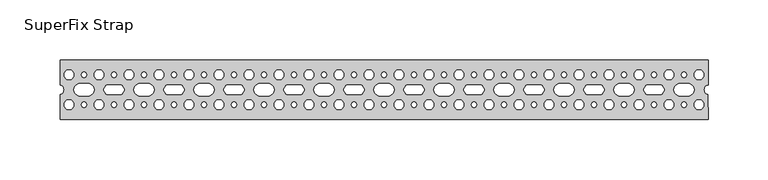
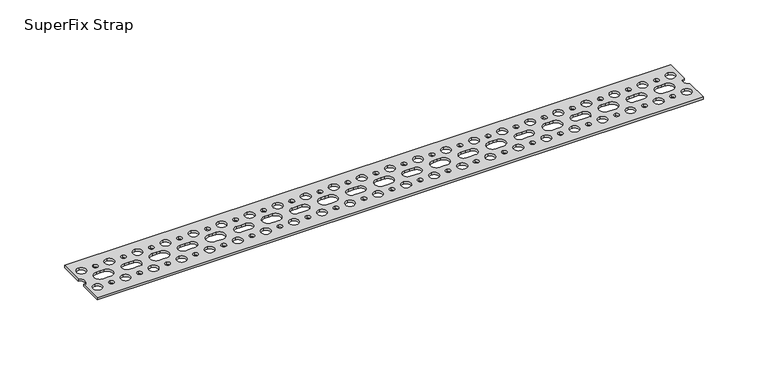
"""IFC4 building model written with IfcOpenShell, lengths in millimetres: valve geometry, Superfix Strap : SuperFix Strap."""

from ifc_helpers import new_model, si_unit, point, frame_2d, origin, origin_with_axes, place, context, project, spatial, polyline, circle_curve, trimmed, segment, composite_curve, outline, extrude, source, transform, mapped, element, save


def superfix_strap_511f298a(model_context):
    return source(origin(), model_context, "Body", "SweptSolid", [
        extrude(outline(composite_curve([segment(polyline([(270.0, -25.0), (-270.0, -25.0), (-270.0, -4.0816663)]), True, "CONTINUOUS"), segment(trimmed(circle_curve(frame_2d((-270.75, 0.0)), 4.15), [point((-270.0, -4.0816663))], [point((-270.0, 4.0816663))], True, "CARTESIAN"), True, "CONTINUOUS"), segment(polyline([(-270.0, 4.0816663), (-270.0, 25.0), (270.0, 25.0), (270.0, 4.0816663)]), True, "CONTINUOUS"), segment(trimmed(circle_curve(frame_2d((270.75, 0.0)), 4.15), [point((270.0, 4.0816663))], [point((270.0, -4.0816663))], True, "CARTESIAN"), True, "CONTINUOUS"), segment(polyline([(270.0, -4.0816663), (270.0, -25.0)]), True, "CONTINUOUS")], self_intersect=False), holes=[composite_curve([segment(polyline([(25.0, 4.15), (20.75, 4.15)]), True, "CONTINUOUS"), segment(trimmed(circle_curve(frame_2d((20.75, 0.0)), 4.15), [point((20.75, 4.15))], [point((20.75, -4.15))], True, "CARTESIAN"), True, "CONTINUOUS"), segment(polyline([(20.75, -4.15), (25.0, -4.15), (29.25, -4.15)]), True, "CONTINUOUS"), segment(trimmed(circle_curve(frame_2d((29.25, 0.0)), 4.15), [point((29.25, -4.15))], [point((29.25, 4.15))], True, "CARTESIAN"), True, "CONTINUOUS"), segment(polyline([(29.25, 4.15), (25.0, 4.15)]), True, "CONTINUOUS")], self_intersect=False), composite_curve([segment(polyline([(0.0, 5.15), (-3.25, 5.15)]), True, "CONTINUOUS"), segment(trimmed(circle_curve(frame_2d((-3.25, 0.0)), 5.15), [point((-3.25, 5.15))], [point((-3.25, -5.15))], True, "CARTESIAN"), True, "CONTINUOUS"), segment(polyline([(-3.25, -5.15), (0.0, -5.15), (3.25, -5.15)]), True, "CONTINUOUS"), segment(trimmed(circle_curve(frame_2d((3.25, 0.0)), 5.15), [point((3.25, -5.15))], [point((3.25, 5.15))], True, "CARTESIAN"), True, "CONTINUOUS"), segment(polyline([(3.25, 5.15), (0.0, 5.15)]), True, "CONTINUOUS")], self_intersect=False), composite_curve([segment(trimmed(circle_curve(frame_2d((0.0, 12.5)), 2.15), [point((0.0, 14.65))], [point((0.0, 10.35))], True, "CARTESIAN"), True, "CONTINUOUS"), segment(trimmed(circle_curve(frame_2d((0.0, 12.5)), 2.15), [point((0.0, 10.35))], [point((0.0, 14.65))], True, "CARTESIAN"), True, "CONTINUOUS")], self_intersect=False), composite_curve([segment(trimmed(circle_curve(frame_2d((25.0, 12.5)), 2.15), [point((25.0, 14.65))], [point((25.0, 10.35))], True, "CARTESIAN"), True, "CONTINUOUS"), segment(trimmed(circle_curve(frame_2d((25.0, 12.5)), 2.15), [point((25.0, 10.35))], [point((25.0, 14.65))], True, "CARTESIAN"), True, "CONTINUOUS")], self_intersect=False), composite_curve([segment(trimmed(circle_curve(frame_2d((25.0, -12.5)), 2.15), [point((25.0, -10.35))], [point((25.0, -14.65))], True, "CARTESIAN"), True, "CONTINUOUS"), segment(trimmed(circle_curve(frame_2d((25.0, -12.5)), 2.15), [point((25.0, -14.65))], [point((25.0, -10.35))], True, "CARTESIAN"), True, "CONTINUOUS")], self_intersect=False), composite_curve([segment(trimmed(circle_curve(frame_2d((0.0, -12.5)), 2.15), [point((0.0, -10.35))], [point((0.0, -14.65))], True, "CARTESIAN"), True, "CONTINUOUS"), segment(trimmed(circle_curve(frame_2d((0.0, -12.5)), 2.15), [point((0.0, -14.65))], [point((0.0, -10.35))], True, "CARTESIAN"), True, "CONTINUOUS")], self_intersect=False), composite_curve([segment(trimmed(circle_curve(frame_2d((12.5, 12.5)), 4.15), [point((12.5, 16.65))], [point((12.5, 8.35))], True, "CARTESIAN"), True, "CONTINUOUS"), segment(trimmed(circle_curve(frame_2d((12.5, 12.5)), 4.15), [point((12.5, 8.35))], [point((12.5, 16.65))], True, "CARTESIAN"), True, "CONTINUOUS")], self_intersect=False), composite_curve([segment(trimmed(circle_curve(frame_2d((12.5, -12.5)), 4.15), [point((12.5, -8.35))], [point((12.5, -16.65))], True, "CARTESIAN"), True, "CONTINUOUS"), segment(trimmed(circle_curve(frame_2d((12.5, -12.5)), 4.15), [point((12.5, -16.65))], [point((12.5, -8.35))], True, "CARTESIAN"), True, "CONTINUOUS")], self_intersect=False), composite_curve([segment(trimmed(circle_curve(frame_2d((37.5, 12.5)), 4.15), [point((37.5, 16.65))], [point((37.5, 8.35))], True, "CARTESIAN"), True, "CONTINUOUS"), segment(trimmed(circle_curve(frame_2d((37.5, 12.5)), 4.15), [point((37.5, 8.35))], [point((37.5, 16.65))], True, "CARTESIAN"), True, "CONTINUOUS")], self_intersect=False), composite_curve([segment(trimmed(circle_curve(frame_2d((37.5, -12.5)), 4.15), [point((37.5, -8.35))], [point((37.5, -16.65))], True, "CARTESIAN"), True, "CONTINUOUS"), segment(trimmed(circle_curve(frame_2d((37.5, -12.5)), 4.15), [point((37.5, -16.65))], [point((37.5, -8.35))], True, "CARTESIAN"), True, "CONTINUOUS")], self_intersect=False), composite_curve([segment(trimmed(circle_curve(frame_2d((-20.75, 0.0)), 4.15), [point((-20.75, -4.15))], [point((-20.75, 4.15))], True, "CARTESIAN"), True, "CONTINUOUS"), segment(polyline([(-20.75, 4.15), (-25.0, 4.15), (-29.25, 4.15)]), True, "CONTINUOUS"), segment(trimmed(circle_curve(frame_2d((-29.25, 0.0)), 4.15), [point((-29.25, 4.15))], [point((-29.25, -4.15))], True, "CARTESIAN"), True, "CONTINUOUS"), segment(polyline([(-29.25, -4.15), (-25.0, -4.15), (-20.75, -4.15)]), True, "CONTINUOUS")], self_intersect=False), composite_curve([segment(trimmed(circle_curve(frame_2d((-25.0, 12.5)), 2.15), [point((-25.0, 14.65))], [point((-25.0, 10.35))], True, "CARTESIAN"), True, "CONTINUOUS"), segment(trimmed(circle_curve(frame_2d((-25.0, 12.5)), 2.15), [point((-25.0, 10.35))], [point((-25.0, 14.65))], True, "CARTESIAN"), True, "CONTINUOUS")], self_intersect=False), composite_curve([segment(trimmed(circle_curve(frame_2d((-25.0, -12.5)), 2.15), [point((-25.0, -10.35))], [point((-25.0, -14.65))], True, "CARTESIAN"), True, "CONTINUOUS"), segment(trimmed(circle_curve(frame_2d((-25.0, -12.5)), 2.15), [point((-25.0, -14.65))], [point((-25.0, -10.35))], True, "CARTESIAN"), True, "CONTINUOUS")], self_intersect=False), composite_curve([segment(trimmed(circle_curve(frame_2d((-12.5, 12.5)), 4.15), [point((-12.5, 16.65))], [point((-12.5, 8.35))], True, "CARTESIAN"), True, "CONTINUOUS"), segment(trimmed(circle_curve(frame_2d((-12.5, 12.5)), 4.15), [point((-12.5, 8.35))], [point((-12.5, 16.65))], True, "CARTESIAN"), True, "CONTINUOUS")], self_intersect=False), composite_curve([segment(trimmed(circle_curve(frame_2d((-12.5, -12.5)), 4.15), [point((-12.5, -8.35))], [point((-12.5, -16.65))], True, "CARTESIAN"), True, "CONTINUOUS"), segment(trimmed(circle_curve(frame_2d((-12.5, -12.5)), 4.15), [point((-12.5, -16.65))], [point((-12.5, -8.35))], True, "CARTESIAN"), True, "CONTINUOUS")], self_intersect=False), composite_curve([segment(polyline([(46.75, -5.15), (50.0, -5.15), (53.25, -5.15)]), True, "CONTINUOUS"), segment(trimmed(circle_curve(frame_2d((53.25, 0.0)), 5.15), [point((53.25, -5.15))], [point((53.25, 5.15))], True, "CARTESIAN"), True, "CONTINUOUS"), segment(polyline([(53.25, 5.15), (50.0, 5.15), (46.75, 5.15)]), True, "CONTINUOUS"), segment(trimmed(circle_curve(frame_2d((46.75, 0.0)), 5.15), [point((46.75, 5.15))], [point((46.75, -5.15))], True, "CARTESIAN"), True, "CONTINUOUS")], self_intersect=False), composite_curve([segment(trimmed(circle_curve(frame_2d((50.0, 12.5)), 2.15), [point((50.0, 14.65))], [point((50.0, 10.35))], True, "CARTESIAN"), True, "CONTINUOUS"), segment(trimmed(circle_curve(frame_2d((50.0, 12.5)), 2.15), [point((50.0, 10.35))], [point((50.0, 14.65))], True, "CARTESIAN"), True, "CONTINUOUS")], self_intersect=False), composite_curve([segment(trimmed(circle_curve(frame_2d((50.0, -12.5)), 2.15), [point((50.0, -10.35))], [point((50.0, -14.65))], True, "CARTESIAN"), True, "CONTINUOUS"), segment(trimmed(circle_curve(frame_2d((50.0, -12.5)), 2.15), [point((50.0, -14.65))], [point((50.0, -10.35))], True, "CARTESIAN"), True, "CONTINUOUS")], self_intersect=False), composite_curve([segment(trimmed(circle_curve(frame_2d((-37.5, 12.5)), 4.15), [point((-37.5, 16.65))], [point((-37.5, 8.35))], True, "CARTESIAN"), True, "CONTINUOUS"), segment(trimmed(circle_curve(frame_2d((-37.5, 12.5)), 4.15), [point((-37.5, 8.35))], [point((-37.5, 16.65))], True, "CARTESIAN"), True, "CONTINUOUS")], self_intersect=False), composite_curve([segment(trimmed(circle_curve(frame_2d((-37.5, -12.5)), 4.15), [point((-37.5, -8.35))], [point((-37.5, -16.65))], True, "CARTESIAN"), True, "CONTINUOUS"), segment(trimmed(circle_curve(frame_2d((-37.5, -12.5)), 4.15), [point((-37.5, -16.65))], [point((-37.5, -8.35))], True, "CARTESIAN"), True, "CONTINUOUS")], self_intersect=False), composite_curve([segment(polyline([(125.0, 4.15), (120.75, 4.15)]), True, "CONTINUOUS"), segment(trimmed(circle_curve(frame_2d((120.75, 0.0)), 4.15), [point((120.75, 4.15))], [point((120.75, -4.15))], True, "CARTESIAN"), True, "CONTINUOUS"), segment(polyline([(120.75, -4.15), (125.0, -4.15), (129.25, -4.15)]), True, "CONTINUOUS"), segment(trimmed(circle_curve(frame_2d((129.25, 0.0)), 4.15), [point((129.25, -4.15))], [point((129.25, 4.15))], True, "CARTESIAN"), True, "CONTINUOUS"), segment(polyline([(129.25, 4.15), (125.0, 4.15)]), True, "CONTINUOUS")], self_intersect=False), composite_curve([segment(polyline([(100.0, 5.15), (96.75, 5.15)]), True, "CONTINUOUS"), segment(trimmed(circle_curve(frame_2d((96.75, 0.0)), 5.15), [point((96.75, 5.15))], [point((96.75, -5.15))], True, "CARTESIAN"), True, "CONTINUOUS"), segment(polyline([(96.75, -5.15), (100.0, -5.15), (103.25, -5.15)]), True, "CONTINUOUS"), segment(trimmed(circle_curve(frame_2d((103.25, 0.0)), 5.15), [point((103.25, -5.15))], [point((103.25, 5.15))], True, "CARTESIAN"), True, "CONTINUOUS"), segment(polyline([(103.25, 5.15), (100.0, 5.15)]), True, "CONTINUOUS")], self_intersect=False), composite_curve([segment(trimmed(circle_curve(frame_2d((100.0, 12.5)), 2.15), [point((100.0, 14.65))], [point((100.0, 10.35))], True, "CARTESIAN"), True, "CONTINUOUS"), segment(trimmed(circle_curve(frame_2d((100.0, 12.5)), 2.15), [point((100.0, 10.35))], [point((100.0, 14.65))], True, "CARTESIAN"), True, "CONTINUOUS")], self_intersect=False), composite_curve([segment(trimmed(circle_curve(frame_2d((125.0, 12.5)), 2.15), [point((125.0, 14.65))], [point((125.0, 10.35))], True, "CARTESIAN"), True, "CONTINUOUS"), segment(trimmed(circle_curve(frame_2d((125.0, 12.5)), 2.15), [point((125.0, 10.35))], [point((125.0, 14.65))], True, "CARTESIAN"), True, "CONTINUOUS")], self_intersect=False), composite_curve([segment(trimmed(circle_curve(frame_2d((125.0, -12.5)), 2.15), [point((125.0, -10.35))], [point((125.0, -14.65))], True, "CARTESIAN"), True, "CONTINUOUS"), segment(trimmed(circle_curve(frame_2d((125.0, -12.5)), 2.15), [point((125.0, -14.65))], [point((125.0, -10.35))], True, "CARTESIAN"), True, "CONTINUOUS")], self_intersect=False), composite_curve([segment(trimmed(circle_curve(frame_2d((100.0, -12.5)), 2.15), [point((100.0, -10.35))], [point((100.0, -14.65))], True, "CARTESIAN"), True, "CONTINUOUS"), segment(trimmed(circle_curve(frame_2d((100.0, -12.5)), 2.15), [point((100.0, -14.65))], [point((100.0, -10.35))], True, "CARTESIAN"), True, "CONTINUOUS")], self_intersect=False), composite_curve([segment(trimmed(circle_curve(frame_2d((112.5, 12.5)), 4.15), [point((112.5, 16.65))], [point((112.5, 8.35))], True, "CARTESIAN"), True, "CONTINUOUS"), segment(trimmed(circle_curve(frame_2d((112.5, 12.5)), 4.15), [point((112.5, 8.35))], [point((112.5, 16.65))], True, "CARTESIAN"), True, "CONTINUOUS")], self_intersect=False), composite_curve([segment(trimmed(circle_curve(frame_2d((112.5, -12.5)), 4.15), [point((112.5, -8.35))], [point((112.5, -16.65))], True, "CARTESIAN"), True, "CONTINUOUS"), segment(trimmed(circle_curve(frame_2d((112.5, -12.5)), 4.15), [point((112.5, -16.65))], [point((112.5, -8.35))], True, "CARTESIAN"), True, "CONTINUOUS")], self_intersect=False), composite_curve([segment(trimmed(circle_curve(frame_2d((137.5, 12.5)), 4.15), [point((137.5, 16.65))], [point((137.5, 8.35))], True, "CARTESIAN"), True, "CONTINUOUS"), segment(trimmed(circle_curve(frame_2d((137.5, 12.5)), 4.15), [point((137.5, 8.35))], [point((137.5, 16.65))], True, "CARTESIAN"), True, "CONTINUOUS")], self_intersect=False), composite_curve([segment(trimmed(circle_curve(frame_2d((137.5, -12.5)), 4.15), [point((137.5, -8.35))], [point((137.5, -16.65))], True, "CARTESIAN"), True, "CONTINUOUS"), segment(trimmed(circle_curve(frame_2d((137.5, -12.5)), 4.15), [point((137.5, -16.65))], [point((137.5, -8.35))], True, "CARTESIAN"), True, "CONTINUOUS")], self_intersect=False), composite_curve([segment(trimmed(circle_curve(frame_2d((79.25, 0.0)), 4.15), [point((79.25, -4.15))], [point((79.25, 4.15))], True, "CARTESIAN"), True, "CONTINUOUS"), segment(polyline([(79.25, 4.15), (75.0, 4.15), (70.75, 4.15)]), True, "CONTINUOUS"), segment(trimmed(circle_curve(frame_2d((70.75, 0.0)), 4.15), [point((70.75, 4.15))], [point((70.75, -4.15))], True, "CARTESIAN"), True, "CONTINUOUS"), segment(polyline([(70.75, -4.15), (75.0, -4.15), (79.25, -4.15)]), True, "CONTINUOUS")], self_intersect=False), composite_curve([segment(trimmed(circle_curve(frame_2d((75.0, 12.5)), 2.15), [point((75.0, 14.65))], [point((75.0, 10.35))], True, "CARTESIAN"), True, "CONTINUOUS"), segment(trimmed(circle_curve(frame_2d((75.0, 12.5)), 2.15), [point((75.0, 10.35))], [point((75.0, 14.65))], True, "CARTESIAN"), True, "CONTINUOUS")], self_intersect=False), composite_curve([segment(trimmed(circle_curve(frame_2d((75.0, -12.5)), 2.15), [point((75.0, -10.35))], [point((75.0, -14.65))], True, "CARTESIAN"), True, "CONTINUOUS"), segment(trimmed(circle_curve(frame_2d((75.0, -12.5)), 2.15), [point((75.0, -14.65))], [point((75.0, -10.35))], True, "CARTESIAN"), True, "CONTINUOUS")], self_intersect=False), composite_curve([segment(trimmed(circle_curve(frame_2d((87.5, 12.5)), 4.15), [point((87.5, 16.65))], [point((87.5, 8.35))], True, "CARTESIAN"), True, "CONTINUOUS"), segment(trimmed(circle_curve(frame_2d((87.5, 12.5)), 4.15), [point((87.5, 8.35))], [point((87.5, 16.65))], True, "CARTESIAN"), True, "CONTINUOUS")], self_intersect=False), composite_curve([segment(trimmed(circle_curve(frame_2d((87.5, -12.5)), 4.15), [point((87.5, -8.35))], [point((87.5, -16.65))], True, "CARTESIAN"), True, "CONTINUOUS"), segment(trimmed(circle_curve(frame_2d((87.5, -12.5)), 4.15), [point((87.5, -16.65))], [point((87.5, -8.35))], True, "CARTESIAN"), True, "CONTINUOUS")], self_intersect=False), composite_curve([segment(polyline([(146.75, -5.15), (150.0, -5.15), (153.25, -5.15)]), True, "CONTINUOUS"), segment(trimmed(circle_curve(frame_2d((153.25, 0.0)), 5.15), [point((153.25, -5.15))], [point((153.25, 5.15))], True, "CARTESIAN"), True, "CONTINUOUS"), segment(polyline([(153.25, 5.15), (150.0, 5.15), (146.75, 5.15)]), True, "CONTINUOUS"), segment(trimmed(circle_curve(frame_2d((146.75, 0.0)), 5.15), [point((146.75, 5.15))], [point((146.75, -5.15))], True, "CARTESIAN"), True, "CONTINUOUS")], self_intersect=False), composite_curve([segment(trimmed(circle_curve(frame_2d((150.0, 12.5)), 2.15), [point((150.0, 14.65))], [point((150.0, 10.35))], True, "CARTESIAN"), True, "CONTINUOUS"), segment(trimmed(circle_curve(frame_2d((150.0, 12.5)), 2.15), [point((150.0, 10.35))], [point((150.0, 14.65))], True, "CARTESIAN"), True, "CONTINUOUS")], self_intersect=False), composite_curve([segment(trimmed(circle_curve(frame_2d((150.0, -12.5)), 2.15), [point((150.0, -10.35))], [point((150.0, -14.65))], True, "CARTESIAN"), True, "CONTINUOUS"), segment(trimmed(circle_curve(frame_2d((150.0, -12.5)), 2.15), [point((150.0, -14.65))], [point((150.0, -10.35))], True, "CARTESIAN"), True, "CONTINUOUS")], self_intersect=False), composite_curve([segment(trimmed(circle_curve(frame_2d((62.5, 12.5)), 4.15), [point((62.5, 16.65))], [point((62.5, 8.35))], True, "CARTESIAN"), True, "CONTINUOUS"), segment(trimmed(circle_curve(frame_2d((62.5, 12.5)), 4.15), [point((62.5, 8.35))], [point((62.5, 16.65))], True, "CARTESIAN"), True, "CONTINUOUS")], self_intersect=False), composite_curve([segment(trimmed(circle_curve(frame_2d((62.5, -12.5)), 4.15), [point((62.5, -8.35))], [point((62.5, -16.65))], True, "CARTESIAN"), True, "CONTINUOUS"), segment(trimmed(circle_curve(frame_2d((62.5, -12.5)), 4.15), [point((62.5, -16.65))], [point((62.5, -8.35))], True, "CARTESIAN"), True, "CONTINUOUS")], self_intersect=False), composite_curve([segment(polyline([(-75.0, 4.15), (-79.25, 4.15)]), True, "CONTINUOUS"), segment(trimmed(circle_curve(frame_2d((-79.25, 0.0)), 4.15), [point((-79.25, 4.15))], [point((-79.25, -4.15))], True, "CARTESIAN"), True, "CONTINUOUS"), segment(polyline([(-79.25, -4.15), (-75.0, -4.15), (-70.75, -4.15)]), True, "CONTINUOUS"), segment(trimmed(circle_curve(frame_2d((-70.75, 0.0)), 4.15), [point((-70.75, -4.15))], [point((-70.75, 4.15))], True, "CARTESIAN"), True, "CONTINUOUS"), segment(polyline([(-70.75, 4.15), (-75.0, 4.15)]), True, "CONTINUOUS")], self_intersect=False), composite_curve([segment(polyline([(-100.0, 5.15), (-103.25, 5.15)]), True, "CONTINUOUS"), segment(trimmed(circle_curve(frame_2d((-103.25, 0.0)), 5.15), [point((-103.25, 5.15))], [point((-103.25, -5.15))], True, "CARTESIAN"), True, "CONTINUOUS"), segment(polyline([(-103.25, -5.15), (-100.0, -5.15), (-96.75, -5.15)]), True, "CONTINUOUS"), segment(trimmed(circle_curve(frame_2d((-96.75, 0.0)), 5.15), [point((-96.75, -5.15))], [point((-96.75, 5.15))], True, "CARTESIAN"), True, "CONTINUOUS"), segment(polyline([(-96.75, 5.15), (-100.0, 5.15)]), True, "CONTINUOUS")], self_intersect=False), composite_curve([segment(trimmed(circle_curve(frame_2d((-100.0, 12.5)), 2.15), [point((-100.0, 14.65))], [point((-100.0, 10.35))], True, "CARTESIAN"), True, "CONTINUOUS"), segment(trimmed(circle_curve(frame_2d((-100.0, 12.5)), 2.15), [point((-100.0, 10.35))], [point((-100.0, 14.65))], True, "CARTESIAN"), True, "CONTINUOUS")], self_intersect=False), composite_curve([segment(trimmed(circle_curve(frame_2d((-75.0, 12.5)), 2.15), [point((-75.0, 14.65))], [point((-75.0, 10.35))], True, "CARTESIAN"), True, "CONTINUOUS"), segment(trimmed(circle_curve(frame_2d((-75.0, 12.5)), 2.15), [point((-75.0, 10.35))], [point((-75.0, 14.65))], True, "CARTESIAN"), True, "CONTINUOUS")], self_intersect=False), composite_curve([segment(trimmed(circle_curve(frame_2d((-75.0, -12.5)), 2.15), [point((-75.0, -10.35))], [point((-75.0, -14.65))], True, "CARTESIAN"), True, "CONTINUOUS"), segment(trimmed(circle_curve(frame_2d((-75.0, -12.5)), 2.15), [point((-75.0, -14.65))], [point((-75.0, -10.35))], True, "CARTESIAN"), True, "CONTINUOUS")], self_intersect=False), composite_curve([segment(trimmed(circle_curve(frame_2d((-100.0, -12.5)), 2.15), [point((-100.0, -10.35))], [point((-100.0, -14.65))], True, "CARTESIAN"), True, "CONTINUOUS"), segment(trimmed(circle_curve(frame_2d((-100.0, -12.5)), 2.15), [point((-100.0, -14.65))], [point((-100.0, -10.35))], True, "CARTESIAN"), True, "CONTINUOUS")], self_intersect=False), composite_curve([segment(trimmed(circle_curve(frame_2d((-87.5, 12.5)), 4.15), [point((-87.5, 16.65))], [point((-87.5, 8.35))], True, "CARTESIAN"), True, "CONTINUOUS"), segment(trimmed(circle_curve(frame_2d((-87.5, 12.5)), 4.15), [point((-87.5, 8.35))], [point((-87.5, 16.65))], True, "CARTESIAN"), True, "CONTINUOUS")], self_intersect=False), composite_curve([segment(trimmed(circle_curve(frame_2d((-87.5, -12.5)), 4.15), [point((-87.5, -8.35))], [point((-87.5, -16.65))], True, "CARTESIAN"), True, "CONTINUOUS"), segment(trimmed(circle_curve(frame_2d((-87.5, -12.5)), 4.15), [point((-87.5, -16.65))], [point((-87.5, -8.35))], True, "CARTESIAN"), True, "CONTINUOUS")], self_intersect=False), composite_curve([segment(trimmed(circle_curve(frame_2d((-62.5, 12.5)), 4.15), [point((-62.5, 16.65))], [point((-62.5, 8.35))], True, "CARTESIAN"), True, "CONTINUOUS"), segment(trimmed(circle_curve(frame_2d((-62.5, 12.5)), 4.15), [point((-62.5, 8.35))], [point((-62.5, 16.65))], True, "CARTESIAN"), True, "CONTINUOUS")], self_intersect=False), composite_curve([segment(trimmed(circle_curve(frame_2d((-62.5, -12.5)), 4.15), [point((-62.5, -8.35))], [point((-62.5, -16.65))], True, "CARTESIAN"), True, "CONTINUOUS"), segment(trimmed(circle_curve(frame_2d((-62.5, -12.5)), 4.15), [point((-62.5, -16.65))], [point((-62.5, -8.35))], True, "CARTESIAN"), True, "CONTINUOUS")], self_intersect=False), composite_curve([segment(trimmed(circle_curve(frame_2d((-120.75, 0.0)), 4.15), [point((-120.75, -4.15))], [point((-120.75, 4.15))], True, "CARTESIAN"), True, "CONTINUOUS"), segment(polyline([(-120.75, 4.15), (-125.0, 4.15), (-129.25, 4.15)]), True, "CONTINUOUS"), segment(trimmed(circle_curve(frame_2d((-129.25, 0.0)), 4.15), [point((-129.25, 4.15))], [point((-129.25, -4.15))], True, "CARTESIAN"), True, "CONTINUOUS"), segment(polyline([(-129.25, -4.15), (-125.0, -4.15), (-120.75, -4.15)]), True, "CONTINUOUS")], self_intersect=False), composite_curve([segment(trimmed(circle_curve(frame_2d((-125.0, 12.5)), 2.15), [point((-125.0, 14.65))], [point((-125.0, 10.35))], True, "CARTESIAN"), True, "CONTINUOUS"), segment(trimmed(circle_curve(frame_2d((-125.0, 12.5)), 2.15), [point((-125.0, 10.35))], [point((-125.0, 14.65))], True, "CARTESIAN"), True, "CONTINUOUS")], self_intersect=False), composite_curve([segment(trimmed(circle_curve(frame_2d((-125.0, -12.5)), 2.15), [point((-125.0, -10.35))], [point((-125.0, -14.65))], True, "CARTESIAN"), True, "CONTINUOUS"), segment(trimmed(circle_curve(frame_2d((-125.0, -12.5)), 2.15), [point((-125.0, -14.65))], [point((-125.0, -10.35))], True, "CARTESIAN"), True, "CONTINUOUS")], self_intersect=False), composite_curve([segment(trimmed(circle_curve(frame_2d((-112.5, 12.5)), 4.15), [point((-112.5, 16.65))], [point((-112.5, 8.35))], True, "CARTESIAN"), True, "CONTINUOUS"), segment(trimmed(circle_curve(frame_2d((-112.5, 12.5)), 4.15), [point((-112.5, 8.35))], [point((-112.5, 16.65))], True, "CARTESIAN"), True, "CONTINUOUS")], self_intersect=False), composite_curve([segment(trimmed(circle_curve(frame_2d((-112.5, -12.5)), 4.15), [point((-112.5, -8.35))], [point((-112.5, -16.65))], True, "CARTESIAN"), True, "CONTINUOUS"), segment(trimmed(circle_curve(frame_2d((-112.5, -12.5)), 4.15), [point((-112.5, -16.65))], [point((-112.5, -8.35))], True, "CARTESIAN"), True, "CONTINUOUS")], self_intersect=False), composite_curve([segment(polyline([(-53.25, -5.15), (-50.0, -5.15), (-46.75, -5.15)]), True, "CONTINUOUS"), segment(trimmed(circle_curve(frame_2d((-46.75, 0.0)), 5.15), [point((-46.75, -5.15))], [point((-46.75, 5.15))], True, "CARTESIAN"), True, "CONTINUOUS"), segment(polyline([(-46.75, 5.15), (-50.0, 5.15), (-53.25, 5.15)]), True, "CONTINUOUS"), segment(trimmed(circle_curve(frame_2d((-53.25, 0.0)), 5.15), [point((-53.25, 5.15))], [point((-53.25, -5.15))], True, "CARTESIAN"), True, "CONTINUOUS")], self_intersect=False), composite_curve([segment(trimmed(circle_curve(frame_2d((-50.0, 12.5)), 2.15), [point((-50.0, 14.65))], [point((-50.0, 10.35))], True, "CARTESIAN"), True, "CONTINUOUS"), segment(trimmed(circle_curve(frame_2d((-50.0, 12.5)), 2.15), [point((-50.0, 10.35))], [point((-50.0, 14.65))], True, "CARTESIAN"), True, "CONTINUOUS")], self_intersect=False), composite_curve([segment(trimmed(circle_curve(frame_2d((-50.0, -12.5)), 2.15), [point((-50.0, -10.35))], [point((-50.0, -14.65))], True, "CARTESIAN"), True, "CONTINUOUS"), segment(trimmed(circle_curve(frame_2d((-50.0, -12.5)), 2.15), [point((-50.0, -14.65))], [point((-50.0, -10.35))], True, "CARTESIAN"), True, "CONTINUOUS")], self_intersect=False), composite_curve([segment(trimmed(circle_curve(frame_2d((-137.5, 12.5)), 4.15), [point((-137.5, 16.65))], [point((-137.5, 8.35))], True, "CARTESIAN"), True, "CONTINUOUS"), segment(trimmed(circle_curve(frame_2d((-137.5, 12.5)), 4.15), [point((-137.5, 8.35))], [point((-137.5, 16.65))], True, "CARTESIAN"), True, "CONTINUOUS")], self_intersect=False), composite_curve([segment(trimmed(circle_curve(frame_2d((-137.5, -12.5)), 4.15), [point((-137.5, -8.35))], [point((-137.5, -16.65))], True, "CARTESIAN"), True, "CONTINUOUS"), segment(trimmed(circle_curve(frame_2d((-137.5, -12.5)), 4.15), [point((-137.5, -16.65))], [point((-137.5, -8.35))], True, "CARTESIAN"), True, "CONTINUOUS")], self_intersect=False), composite_curve([segment(trimmed(circle_curve(frame_2d((250.0, 12.5)), 2.15), [point((250.0, 14.65))], [point((250.0, 10.35))], True, "CARTESIAN"), True, "CONTINUOUS"), segment(trimmed(circle_curve(frame_2d((250.0, 12.5)), 2.15), [point((250.0, 10.35))], [point((250.0, 14.65))], True, "CARTESIAN"), True, "CONTINUOUS")], self_intersect=False), composite_curve([segment(polyline([(246.75, -5.15), (250.0, -5.15), (253.25, -5.15)]), True, "CONTINUOUS"), segment(trimmed(circle_curve(frame_2d((253.25, 0.0)), 5.15), [point((253.25, -5.15))], [point((253.25, 5.15))], True, "CARTESIAN"), True, "CONTINUOUS"), segment(polyline([(253.25, 5.15), (250.0, 5.15), (246.75, 5.15)]), True, "CONTINUOUS"), segment(trimmed(circle_curve(frame_2d((246.75, 0.0)), 5.15), [point((246.75, 5.15))], [point((246.75, -5.15))], True, "CARTESIAN"), True, "CONTINUOUS")], self_intersect=False), composite_curve([segment(trimmed(circle_curve(frame_2d((250.0, -12.5)), 2.15), [point((250.0, -10.35))], [point((250.0, -14.65))], True, "CARTESIAN"), True, "CONTINUOUS"), segment(trimmed(circle_curve(frame_2d((250.0, -12.5)), 2.15), [point((250.0, -14.65))], [point((250.0, -10.35))], True, "CARTESIAN"), True, "CONTINUOUS")], self_intersect=False), composite_curve([segment(polyline([(225.0, 4.15), (220.75, 4.15)]), True, "CONTINUOUS"), segment(trimmed(circle_curve(frame_2d((220.75, 0.0)), 4.15), [point((220.75, 4.15))], [point((220.75, -4.15))], True, "CARTESIAN"), True, "CONTINUOUS"), segment(polyline([(220.75, -4.15), (225.0, -4.15), (229.25, -4.15)]), True, "CONTINUOUS"), segment(trimmed(circle_curve(frame_2d((229.25, 0.0)), 4.15), [point((229.25, -4.15))], [point((229.25, 4.15))], True, "CARTESIAN"), True, "CONTINUOUS"), segment(polyline([(229.25, 4.15), (225.0, 4.15)]), True, "CONTINUOUS")], self_intersect=False), composite_curve([segment(polyline([(200.0, 5.15), (196.75, 5.15)]), True, "CONTINUOUS"), segment(trimmed(circle_curve(frame_2d((196.75, 0.0)), 5.15), [point((196.75, 5.15))], [point((196.75, -5.15))], True, "CARTESIAN"), True, "CONTINUOUS"), segment(polyline([(196.75, -5.15), (200.0, -5.15), (203.25, -5.15)]), True, "CONTINUOUS"), segment(trimmed(circle_curve(frame_2d((203.25, 0.0)), 5.15), [point((203.25, -5.15))], [point((203.25, 5.15))], True, "CARTESIAN"), True, "CONTINUOUS"), segment(polyline([(203.25, 5.15), (200.0, 5.15)]), True, "CONTINUOUS")], self_intersect=False), composite_curve([segment(trimmed(circle_curve(frame_2d((200.0, 12.5)), 2.15), [point((200.0, 14.65))], [point((200.0, 10.35))], True, "CARTESIAN"), True, "CONTINUOUS"), segment(trimmed(circle_curve(frame_2d((200.0, 12.5)), 2.15), [point((200.0, 10.35))], [point((200.0, 14.65))], True, "CARTESIAN"), True, "CONTINUOUS")], self_intersect=False), composite_curve([segment(trimmed(circle_curve(frame_2d((225.0, 12.5)), 2.15), [point((225.0, 14.65))], [point((225.0, 10.35))], True, "CARTESIAN"), True, "CONTINUOUS"), segment(trimmed(circle_curve(frame_2d((225.0, 12.5)), 2.15), [point((225.0, 10.35))], [point((225.0, 14.65))], True, "CARTESIAN"), True, "CONTINUOUS")], self_intersect=False), composite_curve([segment(trimmed(circle_curve(frame_2d((225.0, -12.5)), 2.15), [point((225.0, -10.35))], [point((225.0, -14.65))], True, "CARTESIAN"), True, "CONTINUOUS"), segment(trimmed(circle_curve(frame_2d((225.0, -12.5)), 2.15), [point((225.0, -14.65))], [point((225.0, -10.35))], True, "CARTESIAN"), True, "CONTINUOUS")], self_intersect=False), composite_curve([segment(trimmed(circle_curve(frame_2d((200.0, -12.5)), 2.15), [point((200.0, -10.35))], [point((200.0, -14.65))], True, "CARTESIAN"), True, "CONTINUOUS"), segment(trimmed(circle_curve(frame_2d((200.0, -12.5)), 2.15), [point((200.0, -14.65))], [point((200.0, -10.35))], True, "CARTESIAN"), True, "CONTINUOUS")], self_intersect=False), composite_curve([segment(trimmed(circle_curve(frame_2d((212.5, 12.5)), 4.15), [point((212.5, 16.65))], [point((212.5, 8.35))], True, "CARTESIAN"), True, "CONTINUOUS"), segment(trimmed(circle_curve(frame_2d((212.5, 12.5)), 4.15), [point((212.5, 8.35))], [point((212.5, 16.65))], True, "CARTESIAN"), True, "CONTINUOUS")], self_intersect=False), composite_curve([segment(trimmed(circle_curve(frame_2d((212.5, -12.5)), 4.15), [point((212.5, -8.35))], [point((212.5, -16.65))], True, "CARTESIAN"), True, "CONTINUOUS"), segment(trimmed(circle_curve(frame_2d((212.5, -12.5)), 4.15), [point((212.5, -16.65))], [point((212.5, -8.35))], True, "CARTESIAN"), True, "CONTINUOUS")], self_intersect=False), composite_curve([segment(trimmed(circle_curve(frame_2d((237.5, 12.5)), 4.15), [point((237.5, 16.65))], [point((237.5, 8.35))], True, "CARTESIAN"), True, "CONTINUOUS"), segment(trimmed(circle_curve(frame_2d((237.5, 12.5)), 4.15), [point((237.5, 8.35))], [point((237.5, 16.65))], True, "CARTESIAN"), True, "CONTINUOUS")], self_intersect=False), composite_curve([segment(trimmed(circle_curve(frame_2d((237.5, -12.5)), 4.15), [point((237.5, -8.35))], [point((237.5, -16.65))], True, "CARTESIAN"), True, "CONTINUOUS"), segment(trimmed(circle_curve(frame_2d((237.5, -12.5)), 4.15), [point((237.5, -16.65))], [point((237.5, -8.35))], True, "CARTESIAN"), True, "CONTINUOUS")], self_intersect=False), composite_curve([segment(trimmed(circle_curve(frame_2d((179.25, 0.0)), 4.15), [point((179.25, -4.15))], [point((179.25, 4.15))], True, "CARTESIAN"), True, "CONTINUOUS"), segment(polyline([(179.25, 4.15), (175.0, 4.15), (170.75, 4.15)]), True, "CONTINUOUS"), segment(trimmed(circle_curve(frame_2d((170.75, 0.0)), 4.15), [point((170.75, 4.15))], [point((170.75, -4.15))], True, "CARTESIAN"), True, "CONTINUOUS"), segment(polyline([(170.75, -4.15), (175.0, -4.15), (179.25, -4.15)]), True, "CONTINUOUS")], self_intersect=False), composite_curve([segment(trimmed(circle_curve(frame_2d((175.0, 12.5)), 2.15), [point((175.0, 14.65))], [point((175.0, 10.35))], True, "CARTESIAN"), True, "CONTINUOUS"), segment(trimmed(circle_curve(frame_2d((175.0, 12.5)), 2.15), [point((175.0, 10.35))], [point((175.0, 14.65))], True, "CARTESIAN"), True, "CONTINUOUS")], self_intersect=False), composite_curve([segment(trimmed(circle_curve(frame_2d((175.0, -12.5)), 2.15), [point((175.0, -10.35))], [point((175.0, -14.65))], True, "CARTESIAN"), True, "CONTINUOUS"), segment(trimmed(circle_curve(frame_2d((175.0, -12.5)), 2.15), [point((175.0, -14.65))], [point((175.0, -10.35))], True, "CARTESIAN"), True, "CONTINUOUS")], self_intersect=False), composite_curve([segment(trimmed(circle_curve(frame_2d((187.5, 12.5)), 4.15), [point((187.5, 16.65))], [point((187.5, 8.35))], True, "CARTESIAN"), True, "CONTINUOUS"), segment(trimmed(circle_curve(frame_2d((187.5, 12.5)), 4.15), [point((187.5, 8.35))], [point((187.5, 16.65))], True, "CARTESIAN"), True, "CONTINUOUS")], self_intersect=False), composite_curve([segment(trimmed(circle_curve(frame_2d((187.5, -12.5)), 4.15), [point((187.5, -8.35))], [point((187.5, -16.65))], True, "CARTESIAN"), True, "CONTINUOUS"), segment(trimmed(circle_curve(frame_2d((187.5, -12.5)), 4.15), [point((187.5, -16.65))], [point((187.5, -8.35))], True, "CARTESIAN"), True, "CONTINUOUS")], self_intersect=False), composite_curve([segment(trimmed(circle_curve(frame_2d((162.5, 12.5)), 4.15), [point((162.5, 16.65))], [point((162.5, 8.35))], True, "CARTESIAN"), True, "CONTINUOUS"), segment(trimmed(circle_curve(frame_2d((162.5, 12.5)), 4.15), [point((162.5, 8.35))], [point((162.5, 16.65))], True, "CARTESIAN"), True, "CONTINUOUS")], self_intersect=False), composite_curve([segment(trimmed(circle_curve(frame_2d((162.5, -12.5)), 4.15), [point((162.5, -8.35))], [point((162.5, -16.65))], True, "CARTESIAN"), True, "CONTINUOUS"), segment(trimmed(circle_curve(frame_2d((162.5, -12.5)), 4.15), [point((162.5, -16.65))], [point((162.5, -8.35))], True, "CARTESIAN"), True, "CONTINUOUS")], self_intersect=False), composite_curve([segment(polyline([(-175.0, 4.15), (-179.25, 4.15)]), True, "CONTINUOUS"), segment(trimmed(circle_curve(frame_2d((-179.25, 0.0)), 4.15), [point((-179.25, 4.15))], [point((-179.25, -4.15))], True, "CARTESIAN"), True, "CONTINUOUS"), segment(polyline([(-179.25, -4.15), (-175.0, -4.15), (-170.75, -4.15)]), True, "CONTINUOUS"), segment(trimmed(circle_curve(frame_2d((-170.75, 0.0)), 4.15), [point((-170.75, -4.15))], [point((-170.75, 4.15))], True, "CARTESIAN"), True, "CONTINUOUS"), segment(polyline([(-170.75, 4.15), (-175.0, 4.15)]), True, "CONTINUOUS")], self_intersect=False), composite_curve([segment(polyline([(-200.0, 5.15), (-203.25, 5.15)]), True, "CONTINUOUS"), segment(trimmed(circle_curve(frame_2d((-203.25, 0.0)), 5.15), [point((-203.25, 5.15))], [point((-203.25, -5.15))], True, "CARTESIAN"), True, "CONTINUOUS"), segment(polyline([(-203.25, -5.15), (-200.0, -5.15), (-196.75, -5.15)]), True, "CONTINUOUS"), segment(trimmed(circle_curve(frame_2d((-196.75, 0.0)), 5.15), [point((-196.75, -5.15))], [point((-196.75, 5.15))], True, "CARTESIAN"), True, "CONTINUOUS"), segment(polyline([(-196.75, 5.15), (-200.0, 5.15)]), True, "CONTINUOUS")], self_intersect=False), composite_curve([segment(trimmed(circle_curve(frame_2d((-200.0, 12.5)), 2.15), [point((-200.0, 14.65))], [point((-200.0, 10.35))], True, "CARTESIAN"), True, "CONTINUOUS"), segment(trimmed(circle_curve(frame_2d((-200.0, 12.5)), 2.15), [point((-200.0, 10.35))], [point((-200.0, 14.65))], True, "CARTESIAN"), True, "CONTINUOUS")], self_intersect=False), composite_curve([segment(trimmed(circle_curve(frame_2d((-175.0, 12.5)), 2.15), [point((-175.0, 14.65))], [point((-175.0, 10.35))], True, "CARTESIAN"), True, "CONTINUOUS"), segment(trimmed(circle_curve(frame_2d((-175.0, 12.5)), 2.15), [point((-175.0, 10.35))], [point((-175.0, 14.65))], True, "CARTESIAN"), True, "CONTINUOUS")], self_intersect=False), composite_curve([segment(trimmed(circle_curve(frame_2d((-175.0, -12.5)), 2.15), [point((-175.0, -10.35))], [point((-175.0, -14.65))], True, "CARTESIAN"), True, "CONTINUOUS"), segment(trimmed(circle_curve(frame_2d((-175.0, -12.5)), 2.15), [point((-175.0, -14.65))], [point((-175.0, -10.35))], True, "CARTESIAN"), True, "CONTINUOUS")], self_intersect=False), composite_curve([segment(trimmed(circle_curve(frame_2d((-200.0, -12.5)), 2.15), [point((-200.0, -10.35))], [point((-200.0, -14.65))], True, "CARTESIAN"), True, "CONTINUOUS"), segment(trimmed(circle_curve(frame_2d((-200.0, -12.5)), 2.15), [point((-200.0, -14.65))], [point((-200.0, -10.35))], True, "CARTESIAN"), True, "CONTINUOUS")], self_intersect=False), composite_curve([segment(trimmed(circle_curve(frame_2d((-187.5, 12.5)), 4.15), [point((-187.5, 16.65))], [point((-187.5, 8.35))], True, "CARTESIAN"), True, "CONTINUOUS"), segment(trimmed(circle_curve(frame_2d((-187.5, 12.5)), 4.15), [point((-187.5, 8.35))], [point((-187.5, 16.65))], True, "CARTESIAN"), True, "CONTINUOUS")], self_intersect=False), composite_curve([segment(trimmed(circle_curve(frame_2d((-187.5, -12.5)), 4.15), [point((-187.5, -8.35))], [point((-187.5, -16.65))], True, "CARTESIAN"), True, "CONTINUOUS"), segment(trimmed(circle_curve(frame_2d((-187.5, -12.5)), 4.15), [point((-187.5, -16.65))], [point((-187.5, -8.35))], True, "CARTESIAN"), True, "CONTINUOUS")], self_intersect=False), composite_curve([segment(trimmed(circle_curve(frame_2d((-162.5, 12.5)), 4.15), [point((-162.5, 16.65))], [point((-162.5, 8.35))], True, "CARTESIAN"), True, "CONTINUOUS"), segment(trimmed(circle_curve(frame_2d((-162.5, 12.5)), 4.15), [point((-162.5, 8.35))], [point((-162.5, 16.65))], True, "CARTESIAN"), True, "CONTINUOUS")], self_intersect=False), composite_curve([segment(trimmed(circle_curve(frame_2d((-162.5, -12.5)), 4.15), [point((-162.5, -8.35))], [point((-162.5, -16.65))], True, "CARTESIAN"), True, "CONTINUOUS"), segment(trimmed(circle_curve(frame_2d((-162.5, -12.5)), 4.15), [point((-162.5, -16.65))], [point((-162.5, -8.35))], True, "CARTESIAN"), True, "CONTINUOUS")], self_intersect=False), composite_curve([segment(trimmed(circle_curve(frame_2d((-220.75, 0.0)), 4.15), [point((-220.75, -4.15))], [point((-220.75, 4.15))], True, "CARTESIAN"), True, "CONTINUOUS"), segment(polyline([(-220.75, 4.15), (-225.0, 4.15), (-229.25, 4.15)]), True, "CONTINUOUS"), segment(trimmed(circle_curve(frame_2d((-229.25, 0.0)), 4.15), [point((-229.25, 4.15))], [point((-229.25, -4.15))], True, "CARTESIAN"), True, "CONTINUOUS"), segment(polyline([(-229.25, -4.15), (-225.0, -4.15), (-220.75, -4.15)]), True, "CONTINUOUS")], self_intersect=False), composite_curve([segment(trimmed(circle_curve(frame_2d((-225.0, 12.5)), 2.15), [point((-225.0, 14.65))], [point((-225.0, 10.35))], True, "CARTESIAN"), True, "CONTINUOUS"), segment(trimmed(circle_curve(frame_2d((-225.0, 12.5)), 2.15), [point((-225.0, 10.35))], [point((-225.0, 14.65))], True, "CARTESIAN"), True, "CONTINUOUS")], self_intersect=False), composite_curve([segment(trimmed(circle_curve(frame_2d((-225.0, -12.5)), 2.15), [point((-225.0, -10.35))], [point((-225.0, -14.65))], True, "CARTESIAN"), True, "CONTINUOUS"), segment(trimmed(circle_curve(frame_2d((-225.0, -12.5)), 2.15), [point((-225.0, -14.65))], [point((-225.0, -10.35))], True, "CARTESIAN"), True, "CONTINUOUS")], self_intersect=False), composite_curve([segment(trimmed(circle_curve(frame_2d((-212.5, 12.5)), 4.15), [point((-212.5, 16.65))], [point((-212.5, 8.35))], True, "CARTESIAN"), True, "CONTINUOUS"), segment(trimmed(circle_curve(frame_2d((-212.5, 12.5)), 4.15), [point((-212.5, 8.35))], [point((-212.5, 16.65))], True, "CARTESIAN"), True, "CONTINUOUS")], self_intersect=False), composite_curve([segment(trimmed(circle_curve(frame_2d((-212.5, -12.5)), 4.15), [point((-212.5, -8.35))], [point((-212.5, -16.65))], True, "CARTESIAN"), True, "CONTINUOUS"), segment(trimmed(circle_curve(frame_2d((-212.5, -12.5)), 4.15), [point((-212.5, -16.65))], [point((-212.5, -8.35))], True, "CARTESIAN"), True, "CONTINUOUS")], self_intersect=False), composite_curve([segment(polyline([(-153.25, -5.15), (-150.0, -5.15), (-146.75, -5.15)]), True, "CONTINUOUS"), segment(trimmed(circle_curve(frame_2d((-146.75, 0.0)), 5.15), [point((-146.75, -5.15))], [point((-146.75, 5.15))], True, "CARTESIAN"), True, "CONTINUOUS"), segment(polyline([(-146.75, 5.15), (-150.0, 5.15), (-153.25, 5.15)]), True, "CONTINUOUS"), segment(trimmed(circle_curve(frame_2d((-153.25, 0.0)), 5.15), [point((-153.25, 5.15))], [point((-153.25, -5.15))], True, "CARTESIAN"), True, "CONTINUOUS")], self_intersect=False), composite_curve([segment(trimmed(circle_curve(frame_2d((-150.0, 12.5)), 2.15), [point((-150.0, 14.65))], [point((-150.0, 10.35))], True, "CARTESIAN"), True, "CONTINUOUS"), segment(trimmed(circle_curve(frame_2d((-150.0, 12.5)), 2.15), [point((-150.0, 10.35))], [point((-150.0, 14.65))], True, "CARTESIAN"), True, "CONTINUOUS")], self_intersect=False), composite_curve([segment(trimmed(circle_curve(frame_2d((-150.0, -12.5)), 2.15), [point((-150.0, -10.35))], [point((-150.0, -14.65))], True, "CARTESIAN"), True, "CONTINUOUS"), segment(trimmed(circle_curve(frame_2d((-150.0, -12.5)), 2.15), [point((-150.0, -14.65))], [point((-150.0, -10.35))], True, "CARTESIAN"), True, "CONTINUOUS")], self_intersect=False), composite_curve([segment(trimmed(circle_curve(frame_2d((-237.5, 12.5)), 4.15), [point((-237.5, 16.65))], [point((-237.5, 8.35))], True, "CARTESIAN"), True, "CONTINUOUS"), segment(trimmed(circle_curve(frame_2d((-237.5, 12.5)), 4.15), [point((-237.5, 8.35))], [point((-237.5, 16.65))], True, "CARTESIAN"), True, "CONTINUOUS")], self_intersect=False), composite_curve([segment(trimmed(circle_curve(frame_2d((-237.5, -12.5)), 4.15), [point((-237.5, -8.35))], [point((-237.5, -16.65))], True, "CARTESIAN"), True, "CONTINUOUS"), segment(trimmed(circle_curve(frame_2d((-237.5, -12.5)), 4.15), [point((-237.5, -16.65))], [point((-237.5, -8.35))], True, "CARTESIAN"), True, "CONTINUOUS")], self_intersect=False), composite_curve([segment(trimmed(circle_curve(frame_2d((262.5, 12.5)), 4.15), [point((262.5, 16.65))], [point((262.5, 8.35))], True, "CARTESIAN"), True, "CONTINUOUS"), segment(trimmed(circle_curve(frame_2d((262.5, 12.5)), 4.15), [point((262.5, 8.35))], [point((262.5, 16.65))], True, "CARTESIAN"), True, "CONTINUOUS")], self_intersect=False), composite_curve([segment(trimmed(circle_curve(frame_2d((262.5, -12.5)), 4.15), [point((262.5, -8.35))], [point((262.5, -16.65))], True, "CARTESIAN"), True, "CONTINUOUS"), segment(trimmed(circle_curve(frame_2d((262.5, -12.5)), 4.15), [point((262.5, -16.65))], [point((262.5, -8.35))], True, "CARTESIAN"), True, "CONTINUOUS")], self_intersect=False), composite_curve([segment(trimmed(circle_curve(frame_2d((-262.5, 12.5)), 4.15), [point((-262.5, 16.65))], [point((-262.5, 8.35))], True, "CARTESIAN"), True, "CONTINUOUS"), segment(trimmed(circle_curve(frame_2d((-262.5, 12.5)), 4.15), [point((-262.5, 8.35))], [point((-262.5, 16.65))], True, "CARTESIAN"), True, "CONTINUOUS")], self_intersect=False), composite_curve([segment(trimmed(circle_curve(frame_2d((-262.5, -12.5)), 4.15), [point((-262.5, -8.35))], [point((-262.5, -16.65))], True, "CARTESIAN"), True, "CONTINUOUS"), segment(trimmed(circle_curve(frame_2d((-262.5, -12.5)), 4.15), [point((-262.5, -16.65))], [point((-262.5, -8.35))], True, "CARTESIAN"), True, "CONTINUOUS")], self_intersect=False), composite_curve([segment(polyline([(-253.25, -5.15), (-250.0, -5.15), (-246.75, -5.15)]), True, "CONTINUOUS"), segment(trimmed(circle_curve(frame_2d((-246.75, 0.0)), 5.15), [point((-246.75, -5.15))], [point((-246.75, 5.15))], True, "CARTESIAN"), True, "CONTINUOUS"), segment(polyline([(-246.75, 5.15), (-250.0, 5.15), (-253.25, 5.15)]), True, "CONTINUOUS"), segment(trimmed(circle_curve(frame_2d((-253.25, 0.0)), 5.15), [point((-253.25, 5.15))], [point((-253.25, -5.15))], True, "CARTESIAN"), True, "CONTINUOUS")], self_intersect=False), composite_curve([segment(trimmed(circle_curve(frame_2d((-250.0, 12.5)), 2.15), [point((-250.0, 14.65))], [point((-250.0, 10.35))], True, "CARTESIAN"), True, "CONTINUOUS"), segment(trimmed(circle_curve(frame_2d((-250.0, 12.5)), 2.15), [point((-250.0, 10.35))], [point((-250.0, 14.65))], True, "CARTESIAN"), True, "CONTINUOUS")], self_intersect=False), composite_curve([segment(trimmed(circle_curve(frame_2d((-250.0, -12.5)), 2.15), [point((-250.0, -10.35))], [point((-250.0, -14.65))], True, "CARTESIAN"), True, "CONTINUOUS"), segment(trimmed(circle_curve(frame_2d((-250.0, -12.5)), 2.15), [point((-250.0, -14.65))], [point((-250.0, -10.35))], True, "CARTESIAN"), True, "CONTINUOUS")], self_intersect=False)]), origin_with_axes(), (0.0, 0.0, 1.0), 2.0),
    ])


if __name__ == "__main__":
    model = new_model("IFC4")
    model_context = context("Model", 3, world=origin())
    ifc_project = project(units=[si_unit("LENGTHUNIT", "METRE", prefix="MILLI")], contexts=[model_context])
    site = spatial("IfcSite", under=ifc_project)
    building = spatial("IfcBuilding", under=site)
    placement = place(None, origin())
    superfix_strap_shape = superfix_strap_511f298a(model_context)
    element("IfcValve", 1, ObjectType="Superfix Strap : SuperFix Strap", at=placement, inside=building, context=model_context, shape_type="MappedRepresentation", body=[
        mapped(superfix_strap_shape, transform((0.0, 0.0, 0.0), x_axis=(1.0, 0.0, 0.0), y_axis=(0.0, 1.0, 0.0), z_axis=(0.0, 0.0, 1.0))),
    ])
    save(model, "model.ifc")
